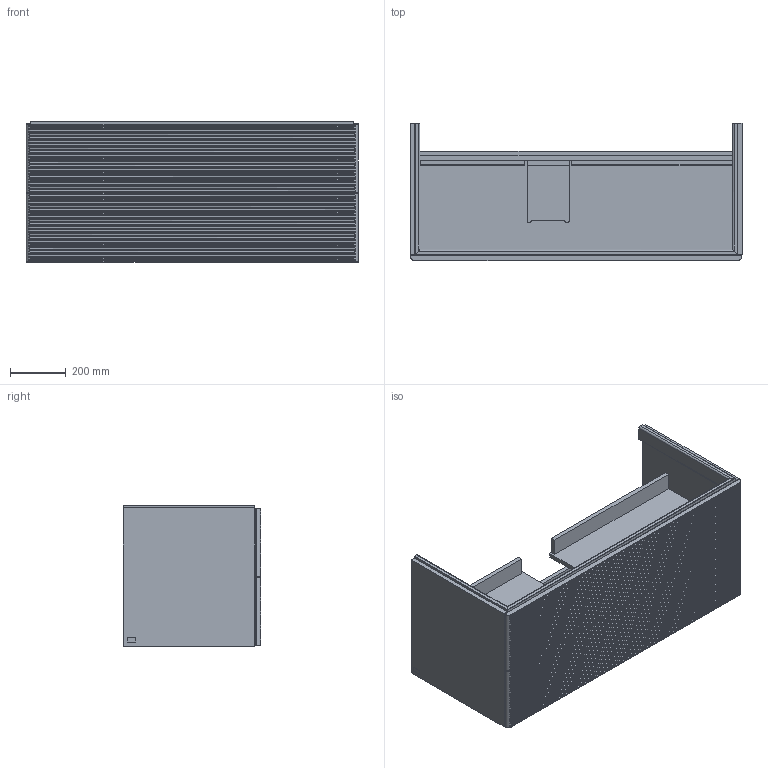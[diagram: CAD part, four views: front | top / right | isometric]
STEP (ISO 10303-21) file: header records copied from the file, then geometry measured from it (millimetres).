
FILE_DESCRIPTION((' '),'2;1');
FILE_NAME('M:\DWG\MÖBEL\3D-Zeichnungen Typen\Antao\STP vereinfacht\K061_L061.stp','2023-04-05T09:42:16',(' '),(' '),' ','ACIS',' ');
FILE_SCHEMA(('CONFIG_CONTROL_DESIGN'));
Length unit declared in the file: millimetre
Products named in the file (17): M:\DWG\MÖBEL\3D-Zeichnungen Typen\Antao\STP vereinfacht\K061_L061.stp; Körper1; Körper2; Körper3; Körper4; Körper5; Körper6; Körper7; Körper8; Körper9; Körper10; Körper11; Körper12; Körper13; Körper14; Körper15; Körper16
Assembly tree (16 placements, depth 2):
  M:\DWG\MÖBEL\3D-Zeichnungen Typen\Antao\STP vereinfacht\K061_L061.stp
    Körper1
    Körper2
    Körper3
    Körper4
    Körper5
    Körper6
    Körper7
    Körper8
    Körper9
    Körper10
    Körper11
    Körper12
    Körper13
    Körper14
    Körper15
    Körper16
Bounding box: 1189 x 493 x 504 mm (x, y, z)
Volume: 45066978.3 mm3; surface area: 6127428.3 mm2
Topology: 16 solids, 16 shells, 378 faces, 998 edges, 648 vertices
Faces by surface type: plane 288, cylinder 78, cone 8, sphere 4
Entity records: 19158 total; most frequent: CARTESIAN_POINT 7381, ORIENTED_EDGE 1988, DIRECTION 1980, EDGE_CURVE 994, AXIS2_PLACEMENT_3D 671, VERTEX_POINT 648, VECTOR 638, LINE 638
